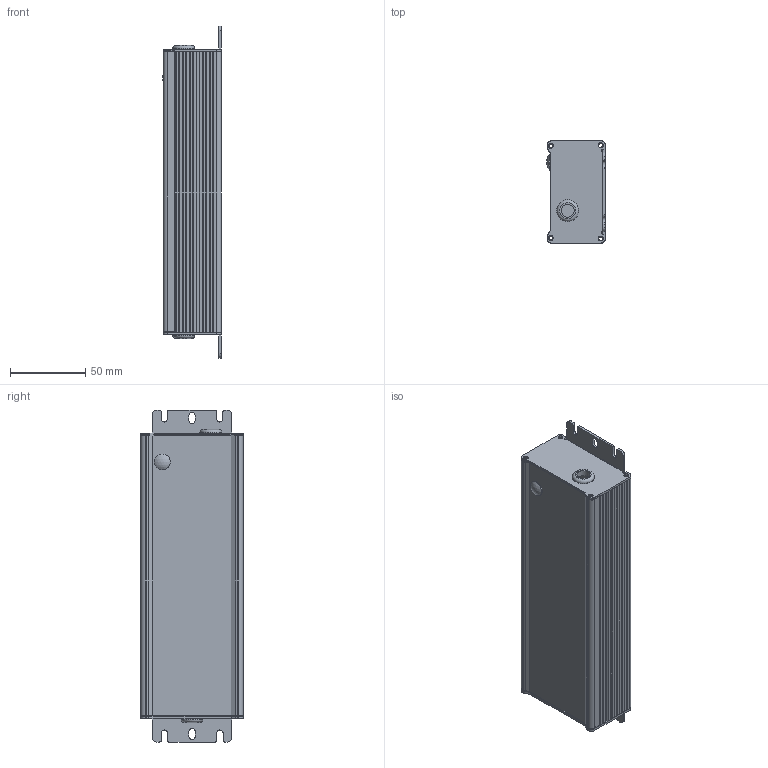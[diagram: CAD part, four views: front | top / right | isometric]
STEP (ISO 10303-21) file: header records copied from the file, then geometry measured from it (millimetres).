
FILE_DESCRIPTION((''),'2;1');
FILE_NAME('W:\mechanical\機構工程圖\3D圖檔\3D Outline-2020\已完成待審核\HLG-120-CA.stp','2020-06-12T08:38:19',('shirley'),(''),'Autodesk Inventor 2010','Autodesk Inventor 2010','');
FILE_SCHEMA(('AUTOMOTIVE_DESIGN { 1 0 10303 214 1 1 1 1 }'));
Length unit declared in the file: millimetre
Products named in the file (14): HLG-120-CA; ˋ°Ûy; gg; M3-10Lê°˜W.1; 組合61; ¯¥ˆO1; ¯¥ˆO; pcb; RD0801007
Assembly tree (16 placements, depth 3):
  HLG-120-CA
    ˋ°Ûy
      gg
      M3-10Lê°˜W.1  x4
    組合61
      HLG-120-CA
    ¯¥ˆO1
      ¯¥ˆO1
    ¯¥ˆO
      ¯¥ˆO
    pcb
      pcb
    RD0801007
      RD0801007
Bounding box: 38.99 x 68.12 x 220.8 mm (x, y, z)
Volume: 107912.2 mm3; surface area: 123329.5 mm2
Topology: 10 solids, 10 shells, 270 faces, 715 edges, 483 vertices
Faces by surface type: plane 169, cylinder 92, cone 5, torus 2, bspline 1, sphere 1
Full cylindrical faces by diameter (mm): 3 x5, 3.3 x8, 3.5 x4, 5 x4, 7 x4, 7.807 x1, 7.912 x1, 8.6 x2, 8.9 x1, 10.5 x1, 14.5 x2
Entity records: 8318 total; most frequent: CARTESIAN_POINT 1396, DIRECTION 1383, ORIENTED_EDGE 1284, EDGE_CURVE 642, VECTOR 471, LINE 471, AXIS2_PLACEMENT_3D 456, VERTEX_POINT 447
